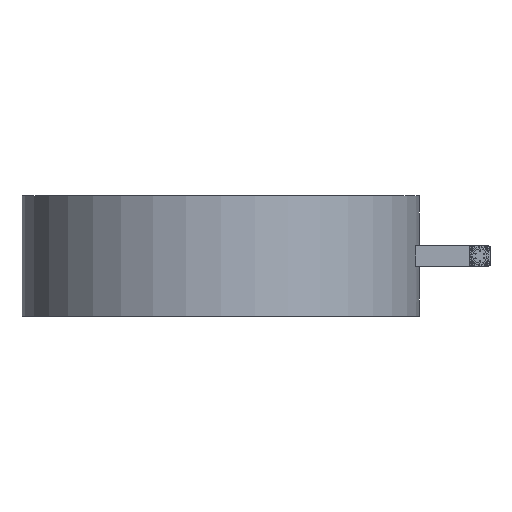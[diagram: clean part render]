
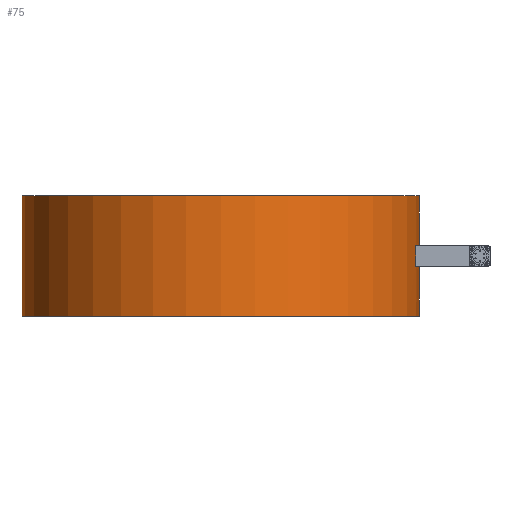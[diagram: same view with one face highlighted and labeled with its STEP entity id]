
A CAD part, front view. The second image highlights one B-rep face of the part: STEP entity #75.
In plain terms, the highlighted cylindrical face has radius 177.8 mm (diameter 355.6 mm), a partial arc.
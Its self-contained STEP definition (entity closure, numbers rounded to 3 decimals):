
#75=ADVANCED_FACE('',(#252),#253,.T.);
#252=FACE_OUTER_BOUND('',#643,.T.);
#253=CYLINDRICAL_SURFACE('',#644,177.8);
#643=EDGE_LOOP('',(#1034,#1035,#1036,#1037,#1038,#1039,#1040,#1041));
#644=AXIS2_PLACEMENT_3D('',#1042,#1043,#1044);
#1034=ORIENTED_EDGE('',*,*,#2436,.F.);
#1035=ORIENTED_EDGE('',*,*,#2437,.T.);
#1036=ORIENTED_EDGE('',*,*,#2438,.F.);
#1037=ORIENTED_EDGE('',*,*,#2439,.F.);
#1038=ORIENTED_EDGE('',*,*,#2440,.F.);
#1039=ORIENTED_EDGE('',*,*,#2441,.T.);
#1040=ORIENTED_EDGE('',*,*,#2442,.T.);
#1041=ORIENTED_EDGE('',*,*,#2443,.T.);
#1042=CARTESIAN_POINT('',(0.0,0.,54.0));
#1043=DIRECTION('',(0.0,0.,1.0));
#1044=DIRECTION('',(1.0,0.0,0.0));
#2436=EDGE_CURVE('',#2873,#2874,#2875,.T.);
#2437=EDGE_CURVE('',#2873,#2876,#2877,.T.);
#2438=EDGE_CURVE('',#2878,#2876,#2879,.T.);
#2439=EDGE_CURVE('',#2880,#2878,#2881,.T.);
#2440=EDGE_CURVE('',#2882,#2880,#2883,.T.);
#2441=EDGE_CURVE('',#2882,#2884,#2885,.T.);
#2442=EDGE_CURVE('',#2884,#2886,#2887,.T.);
#2443=EDGE_CURVE('',#2886,#2874,#2888,.T.);
#2873=VERTEX_POINT('',#3586);
#2874=VERTEX_POINT('',#3587);
#2875=LINE('',#3588,#3589);
#2876=VERTEX_POINT('',#3590);
#2877=CIRCLE('',#3591,177.8);
#2878=VERTEX_POINT('',#3592);
#2879=LINE('',#3593,#3594);
#2880=VERTEX_POINT('',#3595);
#2881=CIRCLE('',#3596,177.8);
#2882=VERTEX_POINT('',#3597);
#2883=LINE('',#3598,#3599);
#2884=VERTEX_POINT('',#3600);
#2885=CIRCLE('',#3601,177.8);
#2886=VERTEX_POINT('',#3602);
#2887=LINE('',#3603,#3604);
#2888=CIRCLE('',#3605,177.8);
#3586=CARTESIAN_POINT('',(177.8,0.,108.0));
#3587=CARTESIAN_POINT('',(177.8,0.,63.3));
#3588=CARTESIAN_POINT('',(177.8,0.,54.0));
#3589=VECTOR('',#5008,1.0);
#3590=CARTESIAN_POINT('',(-177.8,0.,108.0));
#3591=AXIS2_PLACEMENT_3D('',#5009,#5010,#5011);
#3592=CARTESIAN_POINT('',(-177.8,0.,0.));
#3593=CARTESIAN_POINT('',(-177.8,0.,54.0));
#3594=VECTOR('',#5012,1.0);
#3595=CARTESIAN_POINT('',(177.8,0.0,0.0));
#3596=AXIS2_PLACEMENT_3D('',#5013,#5014,#5015);
#3597=CARTESIAN_POINT('',(177.8,0.,44.7));
#3598=CARTESIAN_POINT('',(177.8,0.,54.0));
#3599=VECTOR('',#5016,1.0);
#3600=CARTESIAN_POINT('',(174.759,-32.745,44.7));
#3601=AXIS2_PLACEMENT_3D('',#5017,#5018,#5019);
#3602=CARTESIAN_POINT('',(174.759,-32.745,63.3));
#3603=CARTESIAN_POINT('',(174.759,-32.745,54.0));
#3604=VECTOR('',#5020,1.0);
#3605=AXIS2_PLACEMENT_3D('',#5021,#5022,#5023);
#5008=DIRECTION('',(0.0,0.,-1.0));
#5009=CARTESIAN_POINT('',(0.0,0.,108.0));
#5010=DIRECTION('',(0.0,0.,-1.0));
#5011=DIRECTION('',(1.0,0.0,0.0));
#5012=DIRECTION('',(0.0,0.,1.0));
#5013=CARTESIAN_POINT('',(0.0,0.0,0.0));
#5014=DIRECTION('',(0.0,0.,-1.0));
#5015=DIRECTION('',(1.0,0.0,0.0));
#5016=DIRECTION('',(0.0,0.,-1.0));
#5017=CARTESIAN_POINT('',(0.0,0.,44.7));
#5018=DIRECTION('',(0.,0.0,-1.0));
#5019=DIRECTION('',(1.0,0.0,0.));
#5020=DIRECTION('',(0.0,0.,1.0));
#5021=CARTESIAN_POINT('',(0.0,0.,63.3));
#5022=DIRECTION('',(0.,0.0,1.0));
#5023=DIRECTION('',(1.0,0.0,0.));
